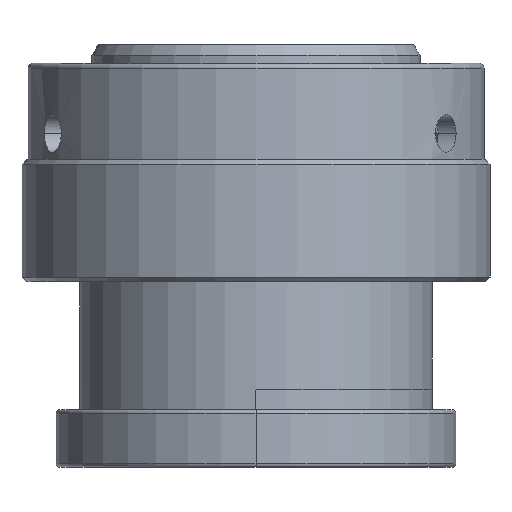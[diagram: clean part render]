
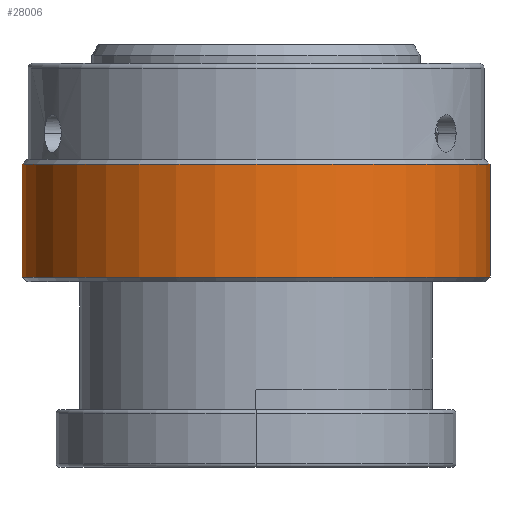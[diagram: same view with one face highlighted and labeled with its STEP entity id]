
A CAD part, left-side view. The second image highlights one B-rep face of the part: STEP entity #28006.
In plain terms, the highlighted cylindrical face has radius 24.765 mm (diameter 49.53 mm), a partial arc.
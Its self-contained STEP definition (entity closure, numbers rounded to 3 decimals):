
#166=DIRECTION('',(0.,0.,1.));
#167=VECTOR('',#166,11.938);
#168=CARTESIAN_POINT('',(0.,24.765,-22.606));
#169=LINE('',#168,#167);
#170=DIRECTION('',(0.,0.,1.));
#171=VECTOR('',#170,11.938);
#172=CARTESIAN_POINT('',(0.,-24.765,-22.606));
#173=LINE('',#172,#171);
#174=CARTESIAN_POINT('',(0.,0.,-22.606));
#175=DIRECTION('',(0.,0.,1.));
#176=DIRECTION('',(0.,1.,0.));
#177=AXIS2_PLACEMENT_3D('',#174,#175,#176);
#187=CARTESIAN_POINT('',(0.,0.,-10.668));
#188=DIRECTION('',(0.,0.,1.));
#189=DIRECTION('',(0.,1.,0.));
#190=AXIS2_PLACEMENT_3D('',#187,#188,#189);
#22179=CARTESIAN_POINT('',(0.,24.765,-22.606));
#22180=CARTESIAN_POINT('',(0.,24.765,-10.668));
#22181=VERTEX_POINT('',#22179);
#22182=VERTEX_POINT('',#22180);
#22185=CARTESIAN_POINT('',(0.,-24.765,-22.606));
#22186=CARTESIAN_POINT('',(0.,-24.765,-10.668));
#22187=VERTEX_POINT('',#22185);
#22188=VERTEX_POINT('',#22186);
#27994=CARTESIAN_POINT('',(0.,0.,1.156));
#27995=DIRECTION('',(0.,0.,-1.));
#27996=DIRECTION('',(0.,-1.,0.));
#27997=AXIS2_PLACEMENT_3D('',#27994,#27995,#27996);
#27998=CYLINDRICAL_SURFACE('',#27997,24.765);
#27999=ORIENTED_EDGE('',*,*,#27984,.T.);
#28001=ORIENTED_EDGE('',*,*,#28000,.T.);
#28002=ORIENTED_EDGE('',*,*,#27987,.F.);
#28003=ORIENTED_EDGE('',*,*,#27958,.F.);
#28004=EDGE_LOOP('',(#27999,#28001,#28002,#28003));
#28005=FACE_OUTER_BOUND('',#28004,.F.);
#28006=ADVANCED_FACE('',(#28005),#27998,.T.);
#178=CIRCLE('',#177,24.765);
#191=CIRCLE('',#190,24.765);
#27958=EDGE_CURVE('',#22181,#22187,#178,.T.);
#27984=EDGE_CURVE('',#22181,#22182,#169,.T.);
#27987=EDGE_CURVE('',#22187,#22188,#173,.T.);
#28000=EDGE_CURVE('',#22182,#22188,#191,.T.);
